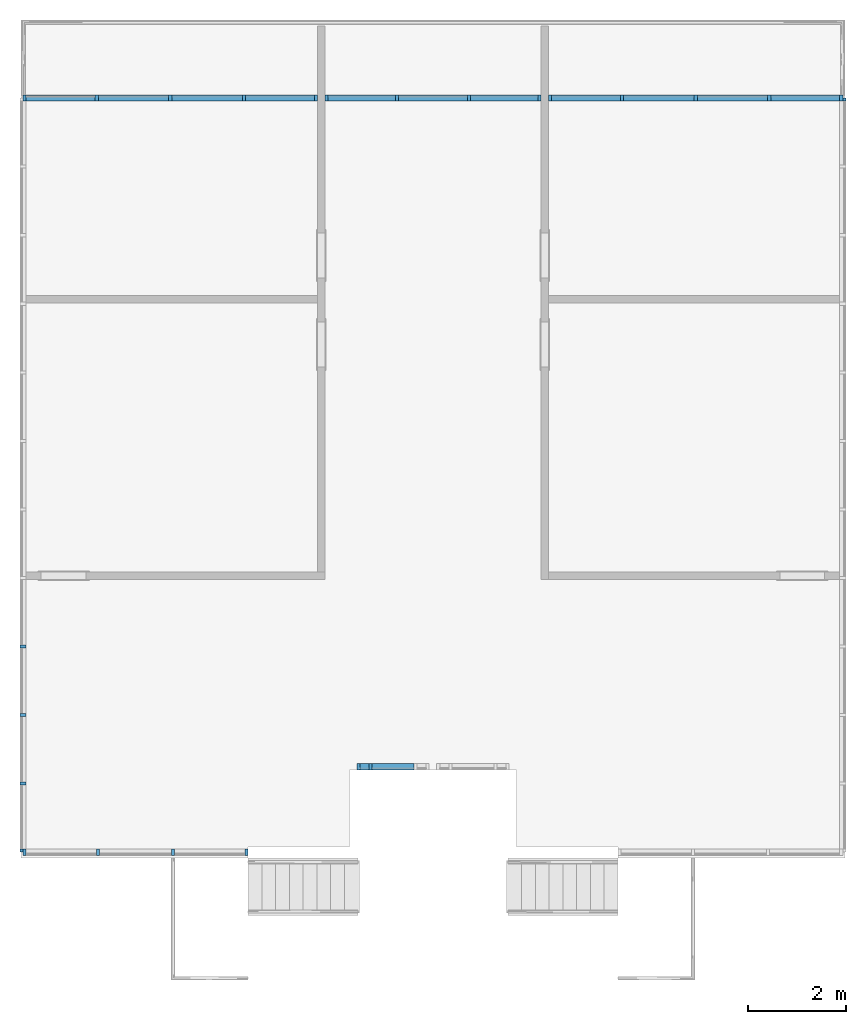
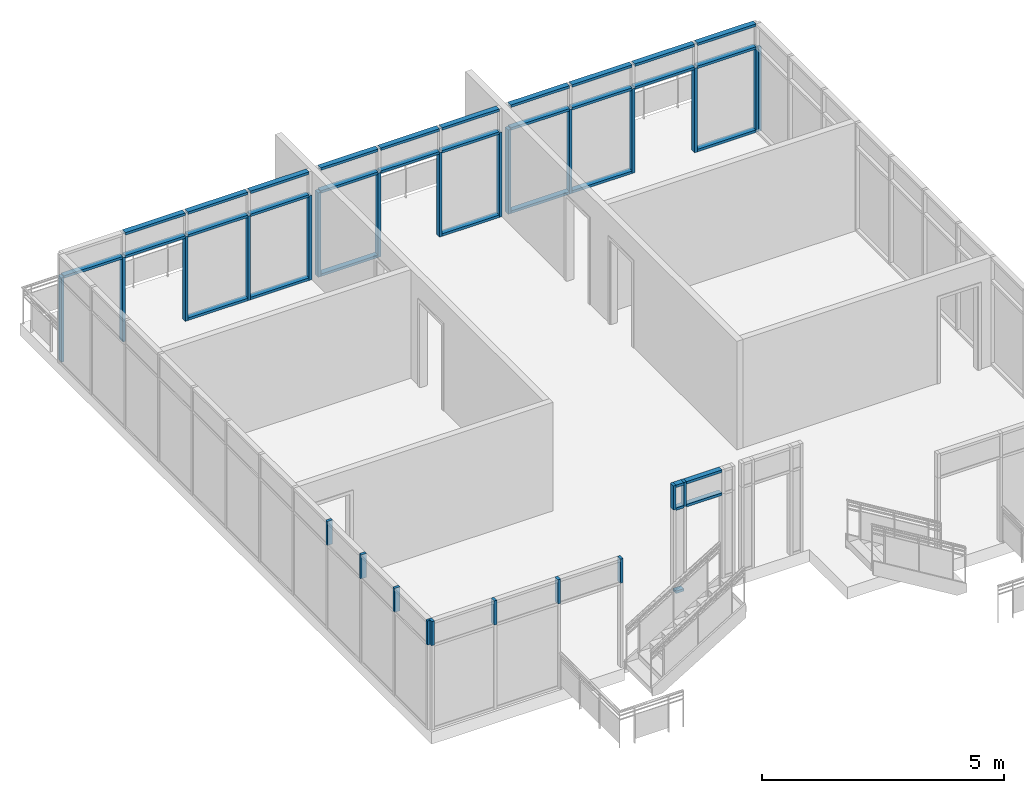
# One storey, part 3 of 11: 58 members, 7 elements without a shape of their own.
"""IFC2X3 building model written with IfcOpenShell, lengths in feet."""

from ifc_helpers import new_model, entity, si_unit, converted_unit, derived_unit, direction, frame, origin, origin_2d_with_axis, place, context, subcontext, project, spatial, rectangle, extrude, source, transform, mapped, material, type_object, type_shapes, element, aggregate, save


model = new_model("IFC2X3")

# Units and contexts
model_context = context("Model", 3, precision=0.0001, world=origin(), true_north=direction((6.12303176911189e-17, 1.0)))
body_context = subcontext(model_context, "Body", "Model", "MODEL_VIEW")
ifc_project = project(units=[converted_unit("LENGTHUNIT", "FOOT", entity("IfcRatioMeasure", 0.3048), si_unit("LENGTHUNIT", "METRE"), dimensions=[1, 0, 0, 0, 0, 0, 0]), converted_unit("AREAUNIT", "SQUARE FOOT", entity("IfcRatioMeasure", 0.09290304), si_unit("AREAUNIT", "SQUARE_METRE"), dimensions=[2, 0, 0, 0, 0, 0, 0]), converted_unit("VOLUMEUNIT", "CUBIC FOOT", entity("IfcRatioMeasure", 0.028316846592), si_unit("VOLUMEUNIT", "CUBIC_METRE"), dimensions=[3, 0, 0, 0, 0, 0, 0]), converted_unit("PLANEANGLEUNIT", "DEGREE", entity("IfcRatioMeasure", 0.0174532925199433), si_unit("PLANEANGLEUNIT", "RADIAN"), dimensions=[0, 0, 0, 0, 0, 0, 0]), si_unit("MASSUNIT", "GRAM", prefix="KILO"), derived_unit("MASSDENSITYUNIT", [(si_unit("MASSUNIT", "GRAM", prefix="KILO"), 1), (si_unit("LENGTHUNIT", "METRE"), -3)]), si_unit("TIMEUNIT", "SECOND"), si_unit("FREQUENCYUNIT", "HERTZ"), si_unit("THERMODYNAMICTEMPERATUREUNIT", "DEGREE_CELSIUS"), derived_unit("THERMALTRANSMITTANCEUNIT", [(si_unit("MASSUNIT", "GRAM", prefix="KILO"), 1), (si_unit("THERMODYNAMICTEMPERATUREUNIT", "KELVIN"), -1), (si_unit("TIMEUNIT", "SECOND"), -3)]), derived_unit("VOLUMETRICFLOWRATEUNIT", [(si_unit("LENGTHUNIT", "METRE"), 3), (si_unit("TIMEUNIT", "SECOND"), -1)]), si_unit("ELECTRICCURRENTUNIT", "AMPERE"), si_unit("ELECTRICVOLTAGEUNIT", "VOLT"), si_unit("POWERUNIT", "WATT"), si_unit("FORCEUNIT", "NEWTON"), si_unit("ILLUMINANCEUNIT", "LUX"), si_unit("LUMINOUSFLUXUNIT", "LUMEN"), si_unit("LUMINOUSINTENSITYUNIT", "CANDELA"), derived_unit("USERDEFINED", [(si_unit("MASSUNIT", "GRAM", prefix="KILO"), -1), (si_unit("LENGTHUNIT", "METRE"), -2), (si_unit("TIMEUNIT", "SECOND"), 3), (si_unit("LUMINOUSFLUXUNIT", "LUMEN"), 1)]), derived_unit("LINEARVELOCITYUNIT", [(si_unit("LENGTHUNIT", "METRE"), 1), (si_unit("TIMEUNIT", "SECOND"), -1)]), si_unit("PRESSUREUNIT", "PASCAL"), derived_unit("USERDEFINED", [(si_unit("LENGTHUNIT", "METRE"), -2), (si_unit("MASSUNIT", "GRAM", prefix="KILO"), 1), (si_unit("TIMEUNIT", "SECOND"), -2)])], contexts=[model_context])

# Site, building, storey
site_placement = place(None, origin())
site = spatial("IfcSite", under=ifc_project, at=site_placement, Name="Default", CompositionType="ELEMENT")
building_placement = place(site_placement, origin())
building = spatial("IfcBuilding", under=site, at=building_placement, CompositionType="ELEMENT")
storey_placement = place(building_placement, frame((0.0, 0.0, 40.0)))
storey = spatial("IfcBuildingStorey", under=building, at=storey_placement, Name="L 7", CompositionType="ELEMENT", Elevation=39.9999999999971)

# Curtain wall, member
curtain_wall_type = type_object("IfcCurtainWallType", Name="Curtain Wall:Storefront 2", PredefinedType="NOTDEFINED")
curtain_wall_1_placement = place(storey_placement, frame((0.0, 0.0, -40.0)))
curtain_wall_1 = element("IfcCurtainWall", 1, at=curtain_wall_1_placement, inside=storey, type_object=curtain_wall_type, Name="Curtain Wall:Storefront 2", ObjectType="Curtain Wall:Storefront 2")
ifc_material = material(Name="Aluminum")
member_type_1 = type_object("IfcMemberType", Name="2.5\" x 5\" rectangular", PredefinedType="MEMBER")
shared_shape_1 = source(origin(), body_context, "Body", "SweptSolid", [
    extrude(rectangle(XDim=0.416666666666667, YDim=0.208333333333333, at=origin_2d_with_axis()), frame((-0.104166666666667, 0.0, -7.0), z_axis=(0.0, 0.0, 1.0), x_axis=(0.0, -1.0, 0.0)), (0.0, 0.0, 1.0), 7.0),
])
type_shapes(member_type_1, [shared_shape_1])
member_1_placement = place(storey_placement, frame((-41.6963748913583, 43.3505254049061, 0.0), z_axis=(0.0, 0.0, -1.0), x_axis=(1.0, 0.0, 0.0)))
member_1 = element("IfcMember", 2, at=member_1_placement, type_object=member_type_1, material=ifc_material, Name="Rectangular Mullion:2.5\" x 5\" rectangular", ObjectType="2.5\" x 5\" rectangular", context=body_context, shape_type="MappedRepresentation", body=[
    mapped(shared_shape_1, transform((0.0, 0.0, 0.0), scale=1.0)),
])

curtain_wall_2_placement = place(storey_placement, frame((0.0, 0.0, -40.0)))
curtain_wall_2 = element("IfcCurtainWall", 3, at=curtain_wall_2_placement, inside=storey, type_object=curtain_wall_type, Name="Curtain Wall:Storefront 2", ObjectType="Curtain Wall:Storefront 2")
member_2_placement = place(storey_placement, frame((-6.65849610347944, 43.350525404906, 0.0), z_axis=(0.0, 0.0, -1.0), x_axis=(1.0, 0.0, 0.0)))
member_2 = element("IfcMember", 4, at=member_2_placement, type_object=member_type_1, material=ifc_material, Name="Rectangular Mullion:2.5\" x 5\" rectangular", ObjectType="2.5\" x 5\" rectangular", context=body_context, shape_type="MappedRepresentation", body=[
    mapped(shared_shape_1, transform((0.0, 0.0, 0.0), scale=1.0)),
])

curtain_wall_3_placement = place(storey_placement, frame((0.0, 0.0, -40.0)))
curtain_wall_3 = element("IfcCurtainWall", 5, at=curtain_wall_3_placement, inside=storey, type_object=curtain_wall_type, Name="Curtain Wall:Storefront 2", ObjectType="Curtain Wall:Storefront 2")
member_3_placement = place(storey_placement, frame((-26.7872839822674, 43.350525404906, 0.0), z_axis=(0.0, 0.0, -1.0), x_axis=(1.0, 0.0, 0.0)))
member_3 = element("IfcMember", 6, at=member_3_placement, type_object=member_type_1, material=ifc_material, Name="Rectangular Mullion:2.5\" x 5\" rectangular", ObjectType="2.5\" x 5\" rectangular", context=body_context, shape_type="MappedRepresentation", body=[
    mapped(shared_shape_1, transform((0.0, 0.0, 0.0), scale=1.0)),
])

curtain_wall_4_placement = place(storey_placement, frame((0.0, 0.0, -40.0)))
curtain_wall_4 = element("IfcCurtainWall", 7, at=curtain_wall_4_placement, inside=storey, type_object=curtain_wall_type, Name="Curtain Wall:Storefront 2", ObjectType="Curtain Wall:Storefront 2")
member_type_2 = type_object("IfcMemberType", Name="2.5\" x 5\" rectangular", PredefinedType="MEMBER")
shared_shape_2 = source(origin(), body_context, "Body", "SweptSolid", [
    extrude(rectangle(XDim=0.416666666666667, YDim=0.208333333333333, at=origin_2d_with_axis()), frame((-0.104166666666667, 0.0, -2.0), z_axis=(0.0, 0.0, 1.0), x_axis=(0.0, -1.0, 0.0)), (0.0, 0.0, 1.0), 2.0),
])
type_shapes(member_type_2, [shared_shape_2])
member_4_placement = place(storey_placement, frame((-61.3251627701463, -6.94114126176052, 7.0), z_axis=(0.0, 0.0, -1.0), x_axis=(-1.0, 0.0, 0.0)))
member_4 = element("IfcMember", 8, at=member_4_placement, type_object=member_type_2, material=ifc_material, Name="Rectangular Mullion:2.5\" x 5\" rectangular", ObjectType="2.5\" x 5\" rectangular", context=body_context, shape_type="MappedRepresentation", body=[
    mapped(shared_shape_2, transform((0.0, 0.0, 0.0), scale=1.0)),
])

curtain_wall_5_placement = place(storey_placement, frame((0.0, 0.0, -40.0)))
curtain_wall_5 = element("IfcCurtainWall", 9, at=curtain_wall_5_placement, inside=storey, type_object=curtain_wall_type, Name="Curtain Wall:Storefront 2", ObjectType="Curtain Wall:Storefront 2")
member_5_placement = place(storey_placement, frame((-39.0751627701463, -1.23280792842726, 7.0), z_axis=(0.0, 0.0, -1.0), x_axis=(-1.0, 0.0, 0.0)))
member_5 = element("IfcMember", 10, at=member_5_placement, type_object=member_type_2, material=ifc_material, Name="Rectangular Mullion:2.5\" x 5\" rectangular", ObjectType="2.5\" x 5\" rectangular", context=body_context, shape_type="MappedRepresentation", body=[
    mapped(shared_shape_2, transform((0.0, 0.0, 0.0), scale=1.0)),
])

# Member
member_type_3 = type_object("IfcMemberType", Name="2.5\" x 5\" rectangular", PredefinedType="MEMBER")
shared_shape_3 = source(origin(), body_context, "Body", "SweptSolid", [
    extrude(rectangle(XDim=0.416666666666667, YDim=0.208333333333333, at=origin_2d_with_axis()), frame((-0.104166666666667, 0.0, -2.0), z_axis=(0.0, 0.0, 1.0), x_axis=(0.0, -1.0, 0.0)), (0.0, 0.0, 1.0), 2.0),
])
type_shapes(member_type_3, [shared_shape_3])
member_6_placement = place(storey_placement, frame((-46.3251627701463, -6.94114126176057, 9.0)))
member_6 = element("IfcMember", 11, at=member_6_placement, type_object=member_type_3, material=ifc_material, Name="Rectangular Mullion:2.5\" x 5\" rectangular", ObjectType="2.5\" x 5\" rectangular", context=body_context, shape_type="MappedRepresentation", body=[
    mapped(shared_shape_3, transform((0.0, 0.0, 0.0), scale=1.0)),
])

# Curtain wall, member
curtain_wall_6_placement = place(storey_placement, frame((0.0, 0.0, -40.0)))
curtain_wall_6 = element("IfcCurtainWall", 12, at=curtain_wall_6_placement, inside=storey, type_object=curtain_wall_type, Name="Curtain Wall:Storefront 2", ObjectType="Curtain Wall:Storefront 2")
member_7_placement = place(storey_placement, frame((-61.3251627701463, -6.94114126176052, 9.0), z_axis=(0.0, 0.0, 1.0), x_axis=(0.0, -1.0, 0.0)))
member_7 = element("IfcMember", 13, at=member_7_placement, type_object=member_type_3, material=ifc_material, Name="Rectangular Mullion:2.5\" x 5\" rectangular", ObjectType="2.5\" x 5\" rectangular", context=body_context, shape_type="MappedRepresentation", body=[
    mapped(shared_shape_3, transform((0.0, 0.0, 0.0), scale=1.0)),
])

# Member
member_type_4 = type_object("IfcMemberType", Name="2.5\" x 5\" rectangular", PredefinedType="MEMBER")
shared_shape_4 = source(origin(), body_context, "Body", "SweptSolid", [
    extrude(rectangle(XDim=0.416666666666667, YDim=0.208333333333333, at=origin_2d_with_axis()), frame((-0.104166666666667, 0.0, -7.0), z_axis=(0.0, 0.0, 1.0), x_axis=(0.0, -1.0, 0.0)), (0.0, 0.0, 1.0), 7.0),
])
type_shapes(member_type_4, [shared_shape_4])
member_8_placement = place(storey_placement, frame((-61.3251627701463, 43.3505254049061, 7.0), z_axis=(0.0, 0.0, 1.0), x_axis=(-1.0, 0.0, 0.0)))
member_8 = element("IfcMember", 14, at=member_8_placement, type_object=member_type_4, material=ifc_material, Name="Rectangular Mullion:2.5\" x 5\" rectangular", ObjectType="2.5\" x 5\" rectangular", context=body_context, shape_type="MappedRepresentation", body=[
    mapped(shared_shape_4, transform((0.0, 0.0, 0.0), scale=1.0)),
])

# Curtain wall, member
curtain_wall_7_placement = place(storey_placement, frame((0.0, 0.0, -40.0)))
curtain_wall_7 = element("IfcCurtainWall", 15, at=curtain_wall_7_placement, inside=storey, type_object=curtain_wall_type, Name="Curtain Wall:Storefront 2", ObjectType="Curtain Wall:Storefront 2")
member_9_placement = place(storey_placement, frame((-6.65849610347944, 43.350525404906, 7.0), z_axis=(0.0, 0.0, 1.0), x_axis=(0.0, 1.0, 0.0)))
member_9 = element("IfcMember", 16, at=member_9_placement, type_object=member_type_4, material=ifc_material, Name="Rectangular Mullion:2.5\" x 5\" rectangular", ObjectType="2.5\" x 5\" rectangular", context=body_context, shape_type="MappedRepresentation", body=[
    mapped(shared_shape_4, transform((0.0, 0.0, 0.0), scale=1.0)),
])
aggregate(curtain_wall_7, [member_9])

# Member
member_10_placement = place(storey_placement, frame((-26.2872839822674, 43.350525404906, 7.0), z_axis=(0.0, 0.0, 1.0), x_axis=(-1.0, 0.0, 0.0)))
member_10 = element("IfcMember", 17, at=member_10_placement, type_object=member_type_4, material=ifc_material, Name="Rectangular Mullion:2.5\" x 5\" rectangular", ObjectType="2.5\" x 5\" rectangular", context=body_context, shape_type="MappedRepresentation", body=[
    mapped(shared_shape_4, transform((0.0, 0.0, 0.0), scale=1.0)),
])

member_11_placement = place(storey_placement, frame((-41.1963748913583, 43.3505254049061, 7.0), z_axis=(0.0, 0.0, 1.0), x_axis=(-1.0, 0.0, 0.0)))
member_11 = element("IfcMember", 18, at=member_11_placement, type_object=member_type_4, material=ifc_material, Name="Rectangular Mullion:2.5\" x 5\" rectangular", ObjectType="2.5\" x 5\" rectangular", context=body_context, shape_type="MappedRepresentation", body=[
    mapped(shared_shape_4, transform((0.0, 0.0, 0.0), scale=1.0)),
])

member_type_5 = type_object("IfcMemberType", Name="2.5\" x 5\" rectangular", PredefinedType="MEMBER")
shared_shape_5 = source(origin(), body_context, "Body", "SweptSolid", [
    extrude(rectangle(XDim=0.416666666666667, YDim=0.208333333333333, at=origin_2d_with_axis()), frame((0.0, 0.0, -7.0), z_axis=(0.0, 0.0, 1.0), x_axis=(0.0, -1.0, 0.0)), (0.0, 0.0, 1.0), 7.0),
])
type_shapes(member_type_5, [shared_shape_5])
member_12_placement = place(storey_placement, frame((-56.4179658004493, 43.3505254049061, 0.0), z_axis=(0.0, 0.0, -1.0), x_axis=(1.0, 0.0, 0.0)))
member_12 = element("IfcMember", 19, at=member_12_placement, type_object=member_type_5, material=ifc_material, Name="Rectangular Mullion:2.5\" x 5\" rectangular", ObjectType="2.5\" x 5\" rectangular", context=body_context, shape_type="MappedRepresentation", body=[
    mapped(shared_shape_5, transform((0.0, 0.0, 0.0), scale=1.0)),
])

member_13_placement = place(storey_placement, frame((-51.5107688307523, 43.3505254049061, 0.0), z_axis=(0.0, 0.0, -1.0), x_axis=(1.0, 0.0, 0.0)))
member_13 = element("IfcMember", 20, at=member_13_placement, type_object=member_type_5, material=ifc_material, Name="Rectangular Mullion:2.5\" x 5\" rectangular", ObjectType="2.5\" x 5\" rectangular", context=body_context, shape_type="MappedRepresentation", body=[
    mapped(shared_shape_5, transform((0.0, 0.0, 0.0), scale=1.0)),
])

member_14_placement = place(storey_placement, frame((-46.6035718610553, 43.3505254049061, 0.0), z_axis=(0.0, 0.0, -1.0), x_axis=(1.0, 0.0, 0.0)))
member_14 = element("IfcMember", 21, at=member_14_placement, type_object=member_type_5, material=ifc_material, Name="Rectangular Mullion:2.5\" x 5\" rectangular", ObjectType="2.5\" x 5\" rectangular", context=body_context, shape_type="MappedRepresentation", body=[
    mapped(shared_shape_5, transform((0.0, 0.0, 0.0), scale=1.0)),
])

member_15_placement = place(storey_placement, frame((-21.3800870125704, 43.350525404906, 0.0), z_axis=(0.0, 0.0, -1.0), x_axis=(1.0, 0.0, 0.0)))
member_15 = element("IfcMember", 22, at=member_15_placement, type_object=member_type_5, material=ifc_material, Name="Rectangular Mullion:2.5\" x 5\" rectangular", ObjectType="2.5\" x 5\" rectangular", context=body_context, shape_type="MappedRepresentation", body=[
    mapped(shared_shape_5, transform((0.0, 0.0, 0.0), scale=1.0)),
])

member_16_placement = place(storey_placement, frame((-16.4728900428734, 43.350525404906, 0.0), z_axis=(0.0, 0.0, -1.0), x_axis=(1.0, 0.0, 0.0)))
member_16 = element("IfcMember", 23, at=member_16_placement, type_object=member_type_5, material=ifc_material, Name="Rectangular Mullion:2.5\" x 5\" rectangular", ObjectType="2.5\" x 5\" rectangular", context=body_context, shape_type="MappedRepresentation", body=[
    mapped(shared_shape_5, transform((0.0, 0.0, 0.0), scale=1.0)),
])

member_17_placement = place(storey_placement, frame((-11.5656930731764, 43.350525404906, 0.0), z_axis=(0.0, 0.0, -1.0), x_axis=(1.0, 0.0, 0.0)))
member_17 = element("IfcMember", 24, at=member_17_placement, type_object=member_type_5, material=ifc_material, Name="Rectangular Mullion:2.5\" x 5\" rectangular", ObjectType="2.5\" x 5\" rectangular", context=body_context, shape_type="MappedRepresentation", body=[
    mapped(shared_shape_5, transform((0.0, 0.0, 0.0), scale=1.0)),
])

member_18_placement = place(storey_placement, frame((-36.393344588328, 43.3505254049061, 0.0), z_axis=(0.0, 0.0, -1.0), x_axis=(1.0, 0.0, 0.0)))
member_18 = element("IfcMember", 25, at=member_18_placement, type_object=member_type_5, material=ifc_material, Name="Rectangular Mullion:2.5\" x 5\" rectangular", ObjectType="2.5\" x 5\" rectangular", context=body_context, shape_type="MappedRepresentation", body=[
    mapped(shared_shape_5, transform((0.0, 0.0, 0.0), scale=1.0)),
])

member_19_placement = place(storey_placement, frame((-31.5903142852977, 43.350525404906, 0.0), z_axis=(0.0, 0.0, -1.0), x_axis=(1.0, 0.0, 0.0)))
member_19 = element("IfcMember", 26, at=member_19_placement, type_object=member_type_5, material=ifc_material, Name="Rectangular Mullion:2.5\" x 5\" rectangular", ObjectType="2.5\" x 5\" rectangular", context=body_context, shape_type="MappedRepresentation", body=[
    mapped(shared_shape_5, transform((0.0, 0.0, 0.0), scale=1.0)),
])

member_type_6 = type_object("IfcMemberType", Name="2.5\" x 5\" rectangular", PredefinedType="MEMBER")
shared_shape_6 = source(origin(), body_context, "Body", "SweptSolid", [
    extrude(rectangle(XDim=0.416666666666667, YDim=0.208333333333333, at=origin_2d_with_axis()), frame((0.0, 0.0, -2.0), z_axis=(0.0, 0.0, 1.0), x_axis=(0.0, -1.0, 0.0)), (0.0, 0.0, 1.0), 2.0),
])
type_shapes(member_type_6, [shared_shape_6])
member_20_placement = place(storey_placement, frame((-51.3251627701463, -6.94114126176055, 7.0), z_axis=(0.0, 0.0, -1.0), x_axis=(-1.0, 0.0, 0.0)))
member_20 = element("IfcMember", 27, at=member_20_placement, type_object=member_type_6, material=ifc_material, Name="Rectangular Mullion:2.5\" x 5\" rectangular", ObjectType="2.5\" x 5\" rectangular", context=body_context, shape_type="MappedRepresentation", body=[
    mapped(shared_shape_6, transform((0.0, 0.0, 0.0), scale=1.0)),
])

member_21_placement = place(storey_placement, frame((-56.3251627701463, -6.94114126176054, 7.0), z_axis=(0.0, 0.0, -1.0), x_axis=(-1.0, 0.0, 0.0)))
member_21 = element("IfcMember", 28, at=member_21_placement, type_object=member_type_6, material=ifc_material, Name="Rectangular Mullion:2.5\" x 5\" rectangular", ObjectType="2.5\" x 5\" rectangular", context=body_context, shape_type="MappedRepresentation", body=[
    mapped(shared_shape_6, transform((0.0, 0.0, 0.0), scale=1.0)),
])

aggregate(curtain_wall_4, [member_4, member_6, member_20, member_21])

member_22_placement = place(storey_placement, frame((-38.1584961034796, -1.23280792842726, 7.0), z_axis=(0.0, 0.0, -1.0), x_axis=(-1.0, 0.0, 0.0)))
member_22 = element("IfcMember", 29, at=member_22_placement, type_object=member_type_6, material=ifc_material, Name="Rectangular Mullion:2.5\" x 5\" rectangular", ObjectType="2.5\" x 5\" rectangular", context=body_context, shape_type="MappedRepresentation", body=[
    mapped(shared_shape_6, transform((0.0, 0.0, 0.0), scale=1.0)),
])

member_23_placement = place(storey_placement, frame((-61.3251627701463, -2.36917156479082, 7.0), z_axis=(0.0, 0.0, -1.0), x_axis=(0.0, 1.0, 0.0)))
member_23 = element("IfcMember", 30, at=member_23_placement, type_object=member_type_6, material=ifc_material, Name="Rectangular Mullion:2.5\" x 5\" rectangular", ObjectType="2.5\" x 5\" rectangular", context=body_context, shape_type="MappedRepresentation", body=[
    mapped(shared_shape_6, transform((0.0, 0.0, 0.0), scale=1.0)),
])

member_24_placement = place(storey_placement, frame((-61.3251627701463, 2.20279813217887, 7.0), z_axis=(0.0, 0.0, -1.0), x_axis=(0.0, 1.0, 0.0)))
member_24 = element("IfcMember", 31, at=member_24_placement, type_object=member_type_6, material=ifc_material, Name="Rectangular Mullion:2.5\" x 5\" rectangular", ObjectType="2.5\" x 5\" rectangular", context=body_context, shape_type="MappedRepresentation", body=[
    mapped(shared_shape_6, transform((0.0, 0.0, 0.0), scale=1.0)),
])

member_25_placement = place(storey_placement, frame((-61.3251627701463, 6.77476782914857, 7.0), z_axis=(0.0, 0.0, -1.0), x_axis=(0.0, 1.0, 0.0)))
member_25 = element("IfcMember", 32, at=member_25_placement, type_object=member_type_6, material=ifc_material, Name="Rectangular Mullion:2.5\" x 5\" rectangular", ObjectType="2.5\" x 5\" rectangular", context=body_context, shape_type="MappedRepresentation", body=[
    mapped(shared_shape_6, transform((0.0, 0.0, 0.0), scale=1.0)),
])

aggregate(curtain_wall_6, [member_7, member_23, member_24, member_25])

member_type_7 = type_object("IfcMemberType", Name="2.5\" x 5\" rectangular", PredefinedType="MEMBER")
shared_shape_7 = source(origin(), body_context, "Body", "SweptSolid", [
    extrude(rectangle(XDim=0.416666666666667, YDim=0.208333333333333, at=origin_2d_with_axis()), frame((-0.104166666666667, 0.0, -0.604166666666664), z_axis=(0.0, 0.0, 1.0), x_axis=(0.0, -1.0, 0.0)), (0.0, 0.0, 1.0), 0.604166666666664),
])
type_shapes(member_type_7, [shared_shape_7])
member_26_placement = place(storey_placement, frame((-38.8668294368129, -1.23280792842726, 9.0), z_axis=(-1.0, 0.0, 0.0), x_axis=(0.0, 0.0, 1.0)))
member_26 = element("IfcMember", 33, at=member_26_placement, type_object=member_type_7, material=ifc_material, Name="Rectangular Mullion:2.5\" x 5\" rectangular", ObjectType="2.5\" x 5\" rectangular", context=body_context, shape_type="MappedRepresentation", body=[
    mapped(shared_shape_7, transform((0.0, 0.0, 0.0), scale=1.0)),
])

member_type_8 = type_object("IfcMemberType", Name="2.5\" x 5\" rectangular", PredefinedType="MEMBER")
shared_shape_8 = source(origin(), body_context, "Body", "SweptSolid", [
    extrude(rectangle(XDim=0.416666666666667, YDim=0.208333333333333, at=origin_2d_with_axis()), frame((-0.104166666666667, 0.0, -0.604166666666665), z_axis=(0.0, 0.0, 1.0), x_axis=(0.0, -1.0, 0.0)), (0.0, 0.0, 1.0), 0.604166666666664),
])
type_shapes(member_type_8, [shared_shape_8])
member_27_placement = place(storey_placement, frame((-38.2626627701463, -1.23280792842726, 0.0), z_axis=(1.0, 0.0, 0.0), x_axis=(0.0, 0.0, -1.0)))
member_27 = element("IfcMember", 34, at=member_27_placement, type_object=member_type_8, material=ifc_material, Name="Rectangular Mullion:2.5\" x 5\" rectangular", ObjectType="2.5\" x 5\" rectangular", context=body_context, shape_type="MappedRepresentation", body=[
    mapped(shared_shape_8, transform((0.0, 0.0, 0.0), scale=1.0)),
])

member_type_9 = type_object("IfcMemberType", Name="2.5\" x 5\" rectangular", PredefinedType="MEMBER")
shared_shape_9 = source(origin(), body_context, "Body", "SweptSolid", [
    extrude(rectangle(XDim=0.416666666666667, YDim=0.208333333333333, at=origin_2d_with_axis()), frame((0.0, 0.0, -0.604166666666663), z_axis=(0.0, 0.0, 1.0), x_axis=(0.0, -1.0, 0.0)), (0.0, 0.0, 1.0), 0.604166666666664),
])
type_shapes(member_type_9, [shared_shape_9])
member_28_placement = place(storey_placement, frame((-38.8668294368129, -1.23280792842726, 7.0), z_axis=(-1.0, 0.0, 0.0), x_axis=(0.0, 0.0, 1.0)))
member_28 = element("IfcMember", 35, at=member_28_placement, type_object=member_type_9, material=ifc_material, Name="Rectangular Mullion:2.5\" x 5\" rectangular", ObjectType="2.5\" x 5\" rectangular", context=body_context, shape_type="MappedRepresentation", body=[
    mapped(shared_shape_9, transform((0.0, 0.0, 0.0), scale=1.0)),
])

member_type_10 = type_object("IfcMemberType", Name="2.5\" x 5\" rectangular", PredefinedType="MEMBER")
shared_shape_10 = source(origin(), body_context, "Body", "SweptSolid", [
    extrude(rectangle(XDim=0.416666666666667, YDim=0.208333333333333, at=origin_2d_with_axis()), frame((0.0, 0.0, -2.79166666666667), z_axis=(0.0, 0.0, 1.0), x_axis=(0.0, -1.0, 0.0)), (0.0, 0.0, 1.0), 2.79166666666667),
])
type_shapes(member_type_10, [shared_shape_10])
member_29_placement = place(storey_placement, frame((-38.0543294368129, -1.23280792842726, 7.0), z_axis=(-1.0, 0.0, 0.0), x_axis=(0.0, 0.0, 1.0)))
member_29 = element("IfcMember", 36, at=member_29_placement, type_object=member_type_10, material=ifc_material, Name="Rectangular Mullion:2.5\" x 5\" rectangular", ObjectType="2.5\" x 5\" rectangular", context=body_context, shape_type="MappedRepresentation", body=[
    mapped(shared_shape_10, transform((0.0, 0.0, 0.0), scale=1.0)),
])

member_type_11 = type_object("IfcMemberType", Name="2.5\" x 5\" rectangular", PredefinedType="MEMBER")
shared_shape_11 = source(origin(), body_context, "Body", "SweptSolid", [
    extrude(rectangle(XDim=0.416666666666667, YDim=0.208333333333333, at=origin_2d_with_axis()), frame((-0.104166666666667, 0.0, -2.79166666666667), z_axis=(0.0, 0.0, 1.0), x_axis=(0.0, -1.0, 0.0)), (0.0, 0.0, 1.0), 2.79166666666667),
])
type_shapes(member_type_11, [shared_shape_11])
member_30_placement = place(storey_placement, frame((-38.0543294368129, -1.23280792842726, 9.0), z_axis=(-1.0, 0.0, 0.0), x_axis=(0.0, 0.0, 1.0)))
member_30 = element("IfcMember", 37, at=member_30_placement, type_object=member_type_11, material=ifc_material, Name="Rectangular Mullion:2.5\" x 5\" rectangular", ObjectType="2.5\" x 5\" rectangular", context=body_context, shape_type="MappedRepresentation", body=[
    mapped(shared_shape_11, transform((0.0, 0.0, 0.0), scale=1.0)),
])

aggregate(curtain_wall_5, [member_26, member_5, member_29, member_30, member_27, member_28, member_22])

member_type_12 = type_object("IfcMemberType", Name="2.5\" x 5\" rectangular", PredefinedType="MEMBER")
shared_shape_12 = source(origin(), body_context, "Body", "SweptSolid", [
    extrude(rectangle(XDim=0.416666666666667, YDim=0.208333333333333, at=origin_2d_with_axis()), frame((-0.104166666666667, 0.0, -4.49053030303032), z_axis=(0.0, 0.0, 1.0), x_axis=(0.0, -1.0, 0.0)), (0.0, 0.0, 1.0), 4.49053030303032),
])
type_shapes(member_type_12, [shared_shape_12])
member_31_placement = place(storey_placement, frame((-26.9956173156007, 43.350525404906, 9.0), z_axis=(1.0, 0.0, 0.0), x_axis=(0.0, 0.0, 1.0)))
member_31 = element("IfcMember", 38, at=member_31_placement, type_object=member_type_12, material=ifc_material, Name="Rectangular Mullion:2.5\" x 5\" rectangular", ObjectType="2.5\" x 5\" rectangular", context=body_context, shape_type="MappedRepresentation", body=[
    mapped(shared_shape_12, transform((0.0, 0.0, 0.0), scale=1.0)),
])

member_32_placement = place(storey_placement, frame((-36.4975112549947, 43.3505254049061, 9.0), z_axis=(1.0, 0.0, 0.0), x_axis=(0.0, 0.0, 1.0)))
member_32 = element("IfcMember", 39, at=member_32_placement, type_object=member_type_12, material=ifc_material, Name="Rectangular Mullion:2.5\" x 5\" rectangular", ObjectType="2.5\" x 5\" rectangular", context=body_context, shape_type="MappedRepresentation", body=[
    mapped(shared_shape_12, transform((0.0, 0.0, 0.0), scale=1.0)),
])

member_type_13 = type_object("IfcMemberType", Name="2.5\" x 5\" rectangular", PredefinedType="MEMBER")
shared_shape_13 = source(origin(), body_context, "Body", "SweptSolid", [
    extrude(rectangle(XDim=0.416666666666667, YDim=0.208333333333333, at=origin_2d_with_axis()), frame((-0.104166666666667, 0.0, -4.59469696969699), z_axis=(0.0, 0.0, 1.0), x_axis=(0.0, -1.0, 0.0)), (0.0, 0.0, 1.0), 4.59469696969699),
])
type_shapes(member_type_13, [shared_shape_13])
member_33_placement = place(storey_placement, frame((-41.9047082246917, 43.3505254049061, 9.0), z_axis=(1.0, 0.0, 0.0), x_axis=(0.0, 0.0, 1.0)))
member_33 = element("IfcMember", 40, at=member_33_placement, type_object=member_type_13, material=ifc_material, Name="Rectangular Mullion:2.5\" x 5\" rectangular", ObjectType="2.5\" x 5\" rectangular", context=body_context, shape_type="MappedRepresentation", body=[
    mapped(shared_shape_13, transform((0.0, 0.0, 0.0), scale=1.0)),
])

member_34_placement = place(storey_placement, frame((-6.86682943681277, 43.350525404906, 9.0), z_axis=(1.0, 0.0, 0.0), x_axis=(0.0, 0.0, 1.0)))
member_34 = element("IfcMember", 41, at=member_34_placement, type_object=member_type_13, material=ifc_material, Name="Rectangular Mullion:2.5\" x 5\" rectangular", ObjectType="2.5\" x 5\" rectangular", context=body_context, shape_type="MappedRepresentation", body=[
    mapped(shared_shape_13, transform((0.0, 0.0, 0.0), scale=1.0)),
])

member_35_placement = place(storey_placement, frame((-21.4842536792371, 43.350525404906, 9.0), z_axis=(1.0, 0.0, 0.0), x_axis=(0.0, 0.0, 1.0)))
member_35 = element("IfcMember", 42, at=member_35_placement, type_object=member_type_13, material=ifc_material, Name="Rectangular Mullion:2.5\" x 5\" rectangular", ObjectType="2.5\" x 5\" rectangular", context=body_context, shape_type="MappedRepresentation", body=[
    mapped(shared_shape_13, transform((0.0, 0.0, 0.0), scale=1.0)),
])

member_36_placement = place(storey_placement, frame((-31.6944809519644, 43.350525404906, 9.0), z_axis=(1.0, 0.0, 0.0), x_axis=(0.0, 0.0, 1.0)))
member_36 = element("IfcMember", 43, at=member_36_placement, type_object=member_type_13, material=ifc_material, Name="Rectangular Mullion:2.5\" x 5\" rectangular", ObjectType="2.5\" x 5\" rectangular", context=body_context, shape_type="MappedRepresentation", body=[
    mapped(shared_shape_13, transform((0.0, 0.0, 0.0), scale=1.0)),
])

member_type_14 = type_object("IfcMemberType", Name="2.5\" x 5\" rectangular", PredefinedType="MEMBER")
shared_shape_14 = source(origin(), body_context, "Body", "SweptSolid", [
    extrude(rectangle(XDim=0.416666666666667, YDim=0.208333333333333, at=origin_2d_with_axis()), frame((-0.104166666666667, 0.0, -4.49053030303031), z_axis=(0.0, 0.0, 1.0), x_axis=(0.0, -1.0, 0.0)), (0.0, 0.0, 1.0), 4.49053030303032),
])
type_shapes(member_type_14, [shared_shape_14])
member_37_placement = place(storey_placement, frame((-40.988041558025, 43.3505254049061, 0.0), z_axis=(-1.0, 0.0, 0.0), x_axis=(0.0, 0.0, -1.0)))
member_37 = element("IfcMember", 44, at=member_37_placement, type_object=member_type_14, material=ifc_material, Name="Rectangular Mullion:2.5\" x 5\" rectangular", ObjectType="2.5\" x 5\" rectangular", context=body_context, shape_type="MappedRepresentation", body=[
    mapped(shared_shape_14, transform((0.0, 0.0, 0.0), scale=1.0)),
])

member_38_placement = place(storey_placement, frame((-31.486147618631, 43.350525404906, 0.0), z_axis=(-1.0, 0.0, 0.0), x_axis=(0.0, 0.0, -1.0)))
member_38 = element("IfcMember", 45, at=member_38_placement, type_object=member_type_14, material=ifc_material, Name="Rectangular Mullion:2.5\" x 5\" rectangular", ObjectType="2.5\" x 5\" rectangular", context=body_context, shape_type="MappedRepresentation", body=[
    mapped(shared_shape_14, transform((0.0, 0.0, 0.0), scale=1.0)),
])

member_type_15 = type_object("IfcMemberType", Name="2.5\" x 5\" rectangular", PredefinedType="MEMBER")
shared_shape_15 = source(origin(), body_context, "Body", "SweptSolid", [
    extrude(rectangle(XDim=0.416666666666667, YDim=0.208333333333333, at=origin_2d_with_axis()), frame((0.0, 0.0, -4.49053030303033), z_axis=(0.0, 0.0, 1.0), x_axis=(0.0, -1.0, 0.0)), (0.0, 0.0, 1.0), 4.49053030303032),
])
type_shapes(member_type_15, [shared_shape_15])
member_39_placement = place(storey_placement, frame((-36.4975112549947, 43.3505254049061, 7.0), z_axis=(1.0, 0.0, 0.0), x_axis=(0.0, 0.0, 1.0)))
member_39 = element("IfcMember", 46, at=member_39_placement, type_object=member_type_15, material=ifc_material, Name="Rectangular Mullion:2.5\" x 5\" rectangular", ObjectType="2.5\" x 5\" rectangular", context=body_context, shape_type="MappedRepresentation", body=[
    mapped(shared_shape_15, transform((0.0, 0.0, 0.0), scale=1.0)),
])

member_40_placement = place(storey_placement, frame((-26.9956173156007, 43.350525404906, 7.0), z_axis=(1.0, 0.0, 0.0), x_axis=(0.0, 0.0, 1.0)))
member_40 = element("IfcMember", 47, at=member_40_placement, type_object=member_type_15, material=ifc_material, Name="Rectangular Mullion:2.5\" x 5\" rectangular", ObjectType="2.5\" x 5\" rectangular", context=body_context, shape_type="MappedRepresentation", body=[
    mapped(shared_shape_15, transform((0.0, 0.0, 0.0), scale=1.0)),
])

member_type_16 = type_object("IfcMemberType", Name="2.5\" x 5\" rectangular", PredefinedType="MEMBER")
shared_shape_16 = source(origin(), body_context, "Body", "SweptSolid", [
    extrude(rectangle(XDim=0.416666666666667, YDim=0.208333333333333, at=origin_2d_with_axis()), frame((0.0, 0.0, -4.59469696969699), z_axis=(0.0, 0.0, 1.0), x_axis=(0.0, -1.0, 0.0)), (0.0, 0.0, 1.0), 4.59469696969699),
])
type_shapes(member_type_16, [shared_shape_16])
member_41_placement = place(storey_placement, frame((-56.522132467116, 43.3505254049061, 7.0), z_axis=(1.0, 0.0, 0.0), x_axis=(0.0, 0.0, 1.0)))
member_41 = element("IfcMember", 48, at=member_41_placement, type_object=member_type_16, material=ifc_material, Name="Rectangular Mullion:2.5\" x 5\" rectangular", ObjectType="2.5\" x 5\" rectangular", context=body_context, shape_type="MappedRepresentation", body=[
    mapped(shared_shape_16, transform((0.0, 0.0, 0.0), scale=1.0)),
])

member_42_placement = place(storey_placement, frame((-41.9047082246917, 43.3505254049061, 7.0), z_axis=(1.0, 0.0, 0.0), x_axis=(0.0, 0.0, 1.0)))
member_42 = element("IfcMember", 49, at=member_42_placement, type_object=member_type_16, material=ifc_material, Name="Rectangular Mullion:2.5\" x 5\" rectangular", ObjectType="2.5\" x 5\" rectangular", context=body_context, shape_type="MappedRepresentation", body=[
    mapped(shared_shape_16, transform((0.0, 0.0, 0.0), scale=1.0)),
])

member_43_placement = place(storey_placement, frame((-21.4842536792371, 43.350525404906, 7.0), z_axis=(1.0, 0.0, 0.0), x_axis=(0.0, 0.0, 1.0)))
member_43 = element("IfcMember", 50, at=member_43_placement, type_object=member_type_16, material=ifc_material, Name="Rectangular Mullion:2.5\" x 5\" rectangular", ObjectType="2.5\" x 5\" rectangular", context=body_context, shape_type="MappedRepresentation", body=[
    mapped(shared_shape_16, transform((0.0, 0.0, 0.0), scale=1.0)),
])

member_44_placement = place(storey_placement, frame((-6.86682943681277, 43.350525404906, 7.0), z_axis=(1.0, 0.0, 0.0), x_axis=(0.0, 0.0, 1.0)))
member_44 = element("IfcMember", 51, at=member_44_placement, type_object=member_type_16, material=ifc_material, Name="Rectangular Mullion:2.5\" x 5\" rectangular", ObjectType="2.5\" x 5\" rectangular", context=body_context, shape_type="MappedRepresentation", body=[
    mapped(shared_shape_16, transform((0.0, 0.0, 0.0), scale=1.0)),
])

member_45_placement = place(storey_placement, frame((-31.6944809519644, 43.350525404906, 7.0), z_axis=(1.0, 0.0, 0.0), x_axis=(0.0, 0.0, 1.0)))
member_45 = element("IfcMember", 52, at=member_45_placement, type_object=member_type_16, material=ifc_material, Name="Rectangular Mullion:2.5\" x 5\" rectangular", ObjectType="2.5\" x 5\" rectangular", context=body_context, shape_type="MappedRepresentation", body=[
    mapped(shared_shape_16, transform((0.0, 0.0, 0.0), scale=1.0)),
])

aggregate(curtain_wall_3, [member_31, member_32, member_36, member_37, member_38, member_3, member_11, member_39, member_45, member_40, member_18, member_19])

member_type_17 = type_object("IfcMemberType", Name="2.5\" x 5\" rectangular", PredefinedType="MEMBER")
shared_shape_17 = source(origin(), body_context, "Body", "SweptSolid", [
    extrude(rectangle(XDim=0.416666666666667, YDim=0.208333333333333, at=origin_2d_with_axis()), frame((-0.104166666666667, 0.0, -4.69886363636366), z_axis=(0.0, 0.0, 1.0), x_axis=(0.0, -1.0, 0.0)), (0.0, 0.0, 1.0), 4.69886363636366),
])
type_shapes(member_type_17, [shared_shape_17])
member_46_placement = place(storey_placement, frame((-51.614935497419, 43.3505254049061, 9.0), z_axis=(1.0, 0.0, 0.0), x_axis=(0.0, 0.0, 1.0)))
member_46 = element("IfcMember", 53, at=member_46_placement, type_object=member_type_17, material=ifc_material, Name="Rectangular Mullion:2.5\" x 5\" rectangular", ObjectType="2.5\" x 5\" rectangular", context=body_context, shape_type="MappedRepresentation", body=[
    mapped(shared_shape_17, transform((0.0, 0.0, 0.0), scale=1.0)),
])

member_47_placement = place(storey_placement, frame((-46.707738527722, 43.3505254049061, 9.0), z_axis=(1.0, 0.0, 0.0), x_axis=(0.0, 0.0, 1.0)))
member_47 = element("IfcMember", 54, at=member_47_placement, type_object=member_type_17, material=ifc_material, Name="Rectangular Mullion:2.5\" x 5\" rectangular", ObjectType="2.5\" x 5\" rectangular", context=body_context, shape_type="MappedRepresentation", body=[
    mapped(shared_shape_17, transform((0.0, 0.0, 0.0), scale=1.0)),
])

member_48_placement = place(storey_placement, frame((-16.5770567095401, 43.350525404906, 9.0), z_axis=(1.0, 0.0, 0.0), x_axis=(0.0, 0.0, 1.0)))
member_48 = element("IfcMember", 55, at=member_48_placement, type_object=member_type_17, material=ifc_material, Name="Rectangular Mullion:2.5\" x 5\" rectangular", ObjectType="2.5\" x 5\" rectangular", context=body_context, shape_type="MappedRepresentation", body=[
    mapped(shared_shape_17, transform((0.0, 0.0, 0.0), scale=1.0)),
])

member_49_placement = place(storey_placement, frame((-11.6698597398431, 43.350525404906, 9.0), z_axis=(1.0, 0.0, 0.0), x_axis=(0.0, 0.0, 1.0)))
member_49 = element("IfcMember", 56, at=member_49_placement, type_object=member_type_17, material=ifc_material, Name="Rectangular Mullion:2.5\" x 5\" rectangular", ObjectType="2.5\" x 5\" rectangular", context=body_context, shape_type="MappedRepresentation", body=[
    mapped(shared_shape_17, transform((0.0, 0.0, 0.0), scale=1.0)),
])

member_type_18 = type_object("IfcMemberType", Name="2.5\" x 5\" rectangular", PredefinedType="MEMBER")
shared_shape_18 = source(origin(), body_context, "Body", "SweptSolid", [
    extrude(rectangle(XDim=0.416666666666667, YDim=0.208333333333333, at=origin_2d_with_axis()), frame((-0.104166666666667, 0.0, -4.59469696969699), z_axis=(0.0, 0.0, 1.0), x_axis=(0.0, -1.0, 0.0)), (0.0, 0.0, 1.0), 4.59469696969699),
])
type_shapes(member_type_18, [shared_shape_18])
member_50_placement = place(storey_placement, frame((-46.4994051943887, 43.3505254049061, 0.0), z_axis=(-1.0, 0.0, 0.0), x_axis=(0.0, 0.0, -1.0)))
member_50 = element("IfcMember", 57, at=member_50_placement, type_object=member_type_18, material=ifc_material, Name="Rectangular Mullion:2.5\" x 5\" rectangular", ObjectType="2.5\" x 5\" rectangular", context=body_context, shape_type="MappedRepresentation", body=[
    mapped(shared_shape_18, transform((0.0, 0.0, 0.0), scale=1.0)),
])

member_51_placement = place(storey_placement, frame((-26.078950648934, 43.350525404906, 0.0), z_axis=(-1.0, 0.0, 0.0), x_axis=(0.0, 0.0, -1.0)))
member_51 = element("IfcMember", 58, at=member_51_placement, type_object=member_type_18, material=ifc_material, Name="Rectangular Mullion:2.5\" x 5\" rectangular", ObjectType="2.5\" x 5\" rectangular", context=body_context, shape_type="MappedRepresentation", body=[
    mapped(shared_shape_18, transform((0.0, 0.0, 0.0), scale=1.0)),
])

member_52_placement = place(storey_placement, frame((-11.4615264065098, 43.350525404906, 0.0), z_axis=(-1.0, 0.0, 0.0), x_axis=(0.0, 0.0, -1.0)))
member_52 = element("IfcMember", 59, at=member_52_placement, type_object=member_type_18, material=ifc_material, Name="Rectangular Mullion:2.5\" x 5\" rectangular", ObjectType="2.5\" x 5\" rectangular", context=body_context, shape_type="MappedRepresentation", body=[
    mapped(shared_shape_18, transform((0.0, 0.0, 0.0), scale=1.0)),
])

member_type_19 = type_object("IfcMemberType", Name="2.5\" x 5\" rectangular", PredefinedType="MEMBER")
shared_shape_19 = source(origin(), body_context, "Body", "SweptSolid", [
    extrude(rectangle(XDim=0.416666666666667, YDim=0.208333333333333, at=origin_2d_with_axis()), frame((-0.104166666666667, 0.0, -4.69886363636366), z_axis=(0.0, 0.0, 1.0), x_axis=(0.0, -1.0, 0.0)), (0.0, 0.0, 1.0), 4.69886363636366),
])
type_shapes(member_type_19, [shared_shape_19])
member_53_placement = place(storey_placement, frame((-51.4066021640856, 43.3505254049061, 0.0), z_axis=(-1.0, 0.0, 0.0), x_axis=(0.0, 0.0, -1.0)))
member_53 = element("IfcMember", 60, at=member_53_placement, type_object=member_type_19, material=ifc_material, Name="Rectangular Mullion:2.5\" x 5\" rectangular", ObjectType="2.5\" x 5\" rectangular", context=body_context, shape_type="MappedRepresentation", body=[
    mapped(shared_shape_19, transform((0.0, 0.0, 0.0), scale=1.0)),
])

member_54_placement = place(storey_placement, frame((-21.2759203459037, 43.350525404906, 0.0), z_axis=(-1.0, 0.0, 0.0), x_axis=(0.0, 0.0, -1.0)))
member_54 = element("IfcMember", 61, at=member_54_placement, type_object=member_type_19, material=ifc_material, Name="Rectangular Mullion:2.5\" x 5\" rectangular", ObjectType="2.5\" x 5\" rectangular", context=body_context, shape_type="MappedRepresentation", body=[
    mapped(shared_shape_19, transform((0.0, 0.0, 0.0), scale=1.0)),
])

member_type_20 = type_object("IfcMemberType", Name="2.5\" x 5\" rectangular", PredefinedType="MEMBER")
shared_shape_20 = source(origin(), body_context, "Body", "SweptSolid", [
    extrude(rectangle(XDim=0.416666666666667, YDim=0.208333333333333, at=origin_2d_with_axis()), frame((0.0, 0.0, -4.69886363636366), z_axis=(0.0, 0.0, 1.0), x_axis=(0.0, -1.0, 0.0)), (0.0, 0.0, 1.0), 4.69886363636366),
])
type_shapes(member_type_20, [shared_shape_20])
member_55_placement = place(storey_placement, frame((-51.614935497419, 43.3505254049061, 7.0), z_axis=(1.0, 0.0, 0.0), x_axis=(0.0, 0.0, 1.0)))
member_55 = element("IfcMember", 62, at=member_55_placement, type_object=member_type_20, material=ifc_material, Name="Rectangular Mullion:2.5\" x 5\" rectangular", ObjectType="2.5\" x 5\" rectangular", context=body_context, shape_type="MappedRepresentation", body=[
    mapped(shared_shape_20, transform((0.0, 0.0, 0.0), scale=1.0)),
])

member_56_placement = place(storey_placement, frame((-46.707738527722, 43.3505254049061, 7.0), z_axis=(1.0, 0.0, 0.0), x_axis=(0.0, 0.0, 1.0)))
member_56 = element("IfcMember", 63, at=member_56_placement, type_object=member_type_20, material=ifc_material, Name="Rectangular Mullion:2.5\" x 5\" rectangular", ObjectType="2.5\" x 5\" rectangular", context=body_context, shape_type="MappedRepresentation", body=[
    mapped(shared_shape_20, transform((0.0, 0.0, 0.0), scale=1.0)),
])

aggregate(curtain_wall_1, [member_33, member_46, member_47, member_53, member_50, member_1, member_8, member_41, member_55, member_56, member_42, member_12, member_13, member_14])

member_57_placement = place(storey_placement, frame((-16.5770567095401, 43.350525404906, 7.0), z_axis=(1.0, 0.0, 0.0), x_axis=(0.0, 0.0, 1.0)))
member_57 = element("IfcMember", 64, at=member_57_placement, type_object=member_type_20, material=ifc_material, Name="Rectangular Mullion:2.5\" x 5\" rectangular", ObjectType="2.5\" x 5\" rectangular", context=body_context, shape_type="MappedRepresentation", body=[
    mapped(shared_shape_20, transform((0.0, 0.0, 0.0), scale=1.0)),
])

member_58_placement = place(storey_placement, frame((-11.6698597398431, 43.350525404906, 7.0), z_axis=(1.0, 0.0, 0.0), x_axis=(0.0, 0.0, 1.0)))
member_58 = element("IfcMember", 65, at=member_58_placement, type_object=member_type_20, material=ifc_material, Name="Rectangular Mullion:2.5\" x 5\" rectangular", ObjectType="2.5\" x 5\" rectangular", context=body_context, shape_type="MappedRepresentation", body=[
    mapped(shared_shape_20, transform((0.0, 0.0, 0.0), scale=1.0)),
])

aggregate(curtain_wall_2, [member_34, member_35, member_48, member_49, member_51, member_54, member_52, member_2, member_10, member_43, member_57, member_58, member_44, member_15, member_16, member_17])

save(model, "model.ifc")
